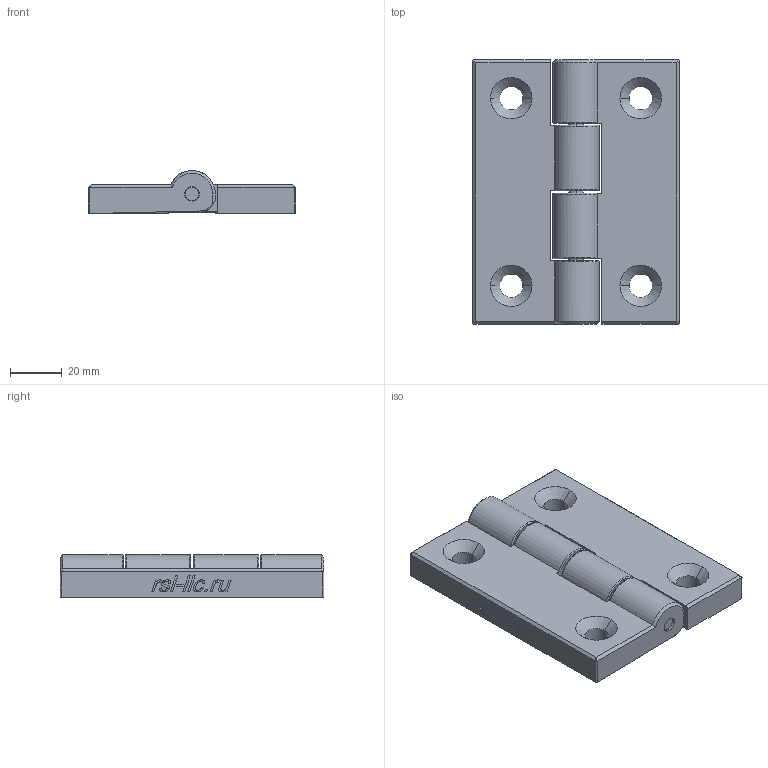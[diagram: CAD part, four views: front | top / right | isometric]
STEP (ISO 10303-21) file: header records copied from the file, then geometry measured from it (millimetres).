
FILE_DESCRIPTION (( 'STEP AP214' ), '1' );
FILE_NAME ('3017.STEP', '2020-10-12T10:39:16', ( '' ), ( '' ), 'SwSTEP 2.0', 'SolidWorks 2018', '' );
FILE_SCHEMA (( 'AUTOMOTIVE_DESIGN' ));
Length unit declared in the file: millimetre
Products named in the file (3): 3017; 3017-02; 3017-01
Assembly tree (3 placements, depth 2):
  3017
    3017-01  x2
    3017-02
Bounding box: 80.2 x 102 x 16.5 mm (x, y, z)
Volume: 68898.6 mm3; surface area: 36232.7 mm2
Topology: 3 solids, 3 shells, 522 faces, 1370 edges, 904 vertices
Faces by surface type: plane 362, bspline 72, cylinder 64, torus 14, cone 10
Entity records: 11187 total; most frequent: CARTESIAN_POINT 3725, ORIENTED_EDGE 1384, DIRECTION 1148, EDGE_CURVE 692, LINE 526, VECTOR 526, VERTEX_POINT 456, AXIS2_PLACEMENT_3D 311
